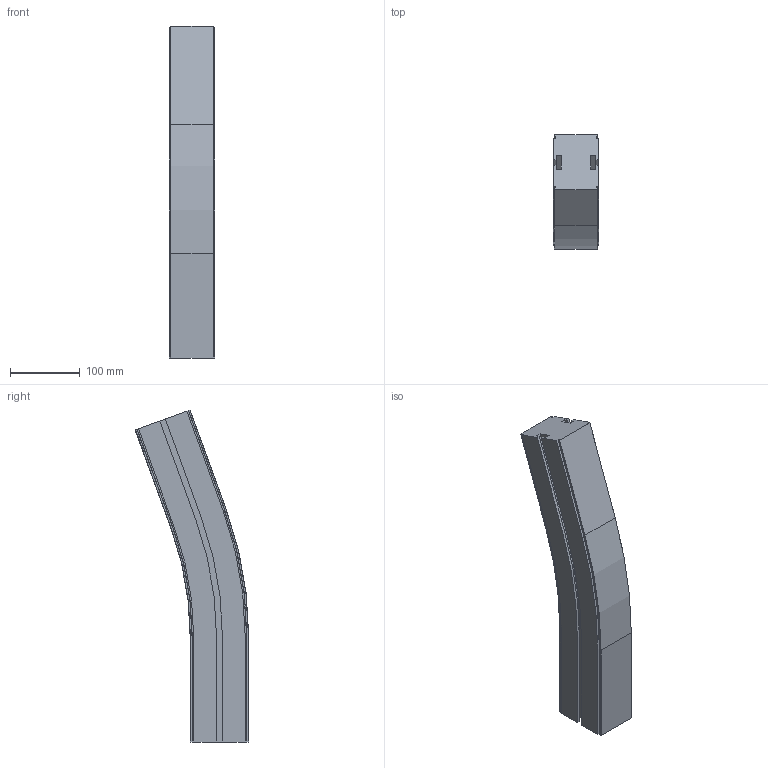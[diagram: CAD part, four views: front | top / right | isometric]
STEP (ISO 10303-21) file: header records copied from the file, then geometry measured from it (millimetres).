
FILE_DESCRIPTION (( 'STEP AP214' ), '1' );
FILE_NAME ('CS SL Verticaalbocht.65 20°.STEP', '2017-02-08T07:37:18', ( '' ), ( '' ), 'SwSTEP 2.0', 'SolidWorks 2016', '' );
FILE_SCHEMA (( 'AUTOMOTIVE_DESIGN' ));
Length unit declared in the file: millimetre
Products named in the file (1): CS SL Verticaalbocht.65 20°
Bounding box: 65 x 162.92 x 476.33 mm (x, y, z)
Volume: 2398588.4 mm3; surface area: 201801.5 mm2
Topology: 1 solids, 1 shells, 98 faces, 272 edges, 176 vertices
Faces by surface type: plane 72, cylinder 18, cone 8
Entity records: 3126 total; most frequent: CARTESIAN_POINT 547, ORIENTED_EDGE 544, DIRECTION 514, EDGE_CURVE 272, LINE 228, VECTOR 228, VERTEX_POINT 176, AXIS2_PLACEMENT_3D 143
